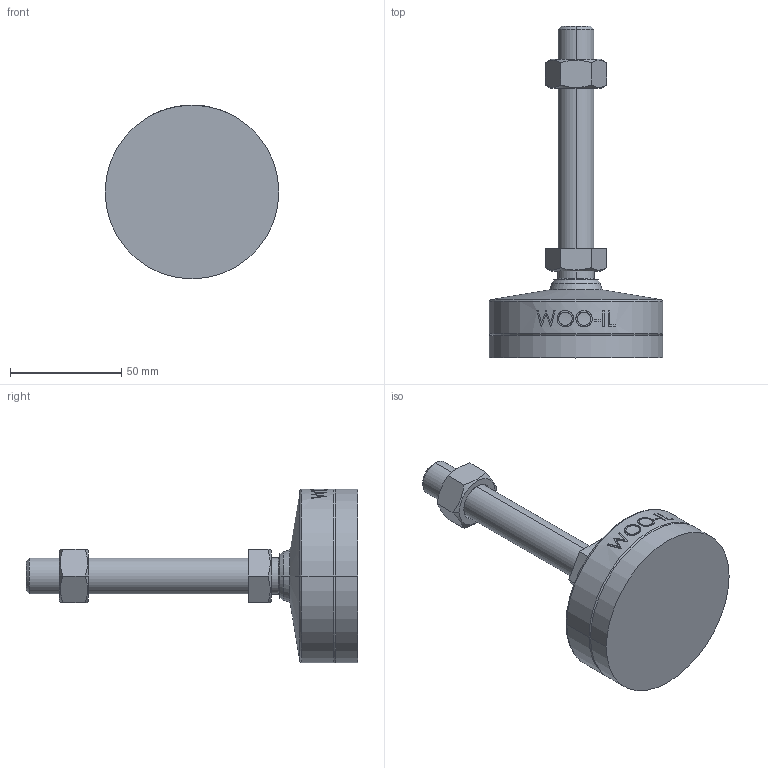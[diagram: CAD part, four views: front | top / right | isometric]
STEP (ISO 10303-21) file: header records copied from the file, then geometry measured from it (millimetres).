
FILE_DESCRIPTION (( 'STEP AP214' ), '1' );
FILE_NAME ('MFNR78-M16-100.step', '2021-02-22T09:07:34', ( '' ), ( '' ), 'SwSTEP 2.0', 'SolidWorks 2019', '' );
FILE_SCHEMA (( 'AUTOMOTIVE_DESIGN' ));
Length unit declared in the file: millimetre
Products named in the file (2): MFNR78-M16-100
Bounding box: 78 x 149 x 78 mm (x, y, z)
Volume: 165481.2 mm3; surface area: 25269.4 mm2
Topology: 2 solids, 2 shells, 105 faces, 245 edges, 156 vertices
Faces by surface type: plane 47, cone 18, cylinder 18, bspline 16, torus 4, sphere 2
Entity records: 4517 total; most frequent: CARTESIAN_POINT 2180, ORIENTED_EDGE 490, DIRECTION 437, EDGE_CURVE 245, AXIS2_PLACEMENT_3D 167, VERTEX_POINT 156, EDGE_LOOP 119, ADVANCED_FACE 105
